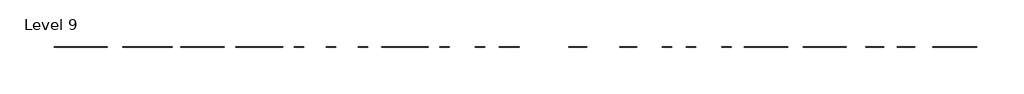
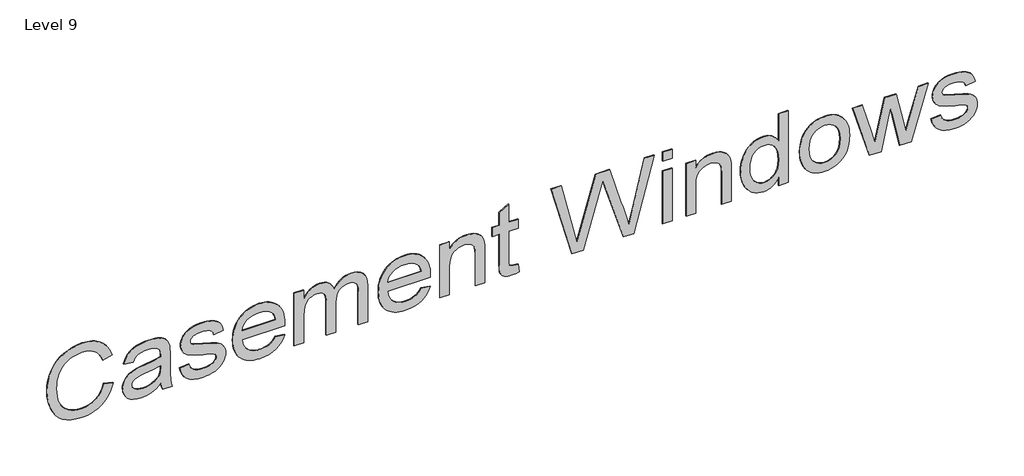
# One storey: 1 proxy.
"""IFC4 building model written with IfcOpenShell, lengths in millimetres."""

from ifc_helpers import new_model, si_unit, frame, origin, place, context, project, spatial, polyline, outline, extrude, element, save

model = new_model("IFC4")

# Units and contexts
model_context = context("Model", 3, world=origin())
ifc_project = project(units=[si_unit("LENGTHUNIT", "METRE", prefix="MILLI")], contexts=[model_context])

# Site, building, storey
site = spatial("IfcSite", under=ifc_project)
building = spatial("IfcBuilding", under=site)
storey = spatial("IfcBuildingStorey", under=building, Name="Level 9", Elevation=24000.0)

# Proxy
placement = place(None, origin())
element("IfcBuildingElementProxy", 1, Name="1200mm Arial", ObjectType="1200mm Arial", at=placement, inside=storey, context=model_context, shape_type="SweptSolid", body=[
    extrude(outline(polyline([(25438.7156522, -163690.7634558), (25371.3942743, -163710.8217832), (25312.8960499, -163738.2865382), (25263.2209789, -163773.1577207), (25222.3690613, -163815.4353308), (25190.483763, -163863.9716412), (25167.7085499, -163917.6189246), (25154.0434221, -163976.377181), (25149.4883795, -164040.2464104), (25152.8329285, -164093.8040276), (25162.8665755, -164145.4427882), (25179.5893205, -164195.1626923), (25203.0011635, -164242.9637399), (25233.1738376, -164286.7208422), (25270.1790755, -164324.3089104), (25314.0168773, -164355.7279445), (25364.6872431, -164380.9779445), (25421.0693454, -164400.372742), (25482.0423567, -164414.2261689), (25547.6062772, -164422.538225), (25617.7611067, -164425.3089104), (25673.5872786, -164422.9686227), (25728.5885215, -164415.9477598), (25782.7648354, -164404.2463216), (25836.1162204, -164387.8643081), (25886.365155, -164365.7077918), (25931.2341181, -164336.682845), (25970.7231096, -164300.7894679), (26004.8321295, -164258.0276604), (26032.3237843, -164209.0161192), (26051.9606806, -164154.373541), (26063.7428184, -164094.099926), (26067.6701976, -164028.195274), (26064.128383, -163970.9165098), (26053.5029391, -163918.7307854), (26035.793866, -163871.6381007), (26011.0011635, -163829.6384558), (25978.461302, -163792.5166518), (25937.5107516, -163760.0574899), (25888.1495123, -163732.26097), (25830.377584, -163709.1270922), (25865.3832658, -163562.2180013), (25943.7873851, -163590.1310872), (26012.8662204, -163627.1004587), (26043.9086564, -163648.9812515), (26072.6197715, -163673.1261156), (26098.9995655, -163699.5350512), (26123.0480385, -163728.2080581), (26144.5006753, -163758.8851044), (26163.0929604, -163791.3061582), (26178.824894, -163825.4712195), (26191.696476, -163861.3802882), (26208.8585854, -163938.430448), (26214.5792885, -164022.4566376), (26210.1587452, -164097.8838393), (26196.8971153, -164170.0830581), (26174.7943986, -164239.0542939), (26143.8505954, -164304.7975467), (26104.3885037, -164365.2594608), (26056.7309221, -164418.3866803), (26000.8778503, -164464.1792051), (25936.8292885, -164502.6370354), (25865.7598638, -164533.0787079), (25788.8442033, -164554.8227598), (25706.082307, -164567.8691909), (25617.4741749, -164572.2180013), (25534.891611, -164568.3713216), (25454.9990329, -164556.8312825), (25377.7964405, -164537.5978841), (25303.283834, -164510.6711263), (25234.4381309, -164476.382774), (25174.2362488, -164435.0645922), (25122.6781877, -164386.7165808), (25079.7639476, -164331.3387399), (25045.9956593, -164268.0613074), (25021.8754533, -164196.0145212), (25007.4033297, -164115.1983812), (25002.5792885, -164025.6128876), (25004.1731051, -163981.0129231), (25008.9545549, -163938.170416), (25016.9236378, -163897.0853663), (25028.0803539, -163857.757774), (25042.4247031, -163820.1876391), (25059.9566856, -163784.3749615), (25080.6763012, -163750.3197413), (25104.5835499, -163718.0219785), (25131.5259993, -163687.8089548), (25161.3512168, -163660.0079516), (25194.0592024, -163634.618969), (25229.6499562, -163611.642007), (25268.123478, -163591.0770655), (25309.4797679, -163572.9241447), (25400.8406522, -163543.8543649), (25438.7156522, -163690.7634558)])), frame((0.0, 24202.6264647, 0.0), z_axis=(0.0, 1.0, 0.0), x_axis=(0.0, 0.0, 1.0)), (0.0, 0.0, 1.0), 10.0),
    extrude(outline(polyline([(25131.1247431, -162809.3089104), (25072.0167885, -162796.1100467), (25045.4755954, -162785.6370354), (25020.9429249, -162772.5816376), (25020.9429249, -162625.6725467), (25081.3779391, -162643.8927172), (25144.4670726, -162654.9395922), (25240.4816323, -162660.5347626), (25399.6929249, -162662.3998195), (25582.4684931, -162662.3998195), (25660.2270158, -162664.1931433), (25711.0139476, -162669.5731149), (25766.0689903, -162687.2911547), (25789.6960322, -162699.7547555), (25810.7227545, -162714.6214104), (25829.6154214, -162732.9581469), (25846.8402971, -162755.8319928), (25862.3973816, -162783.242948), (25876.2866749, -162815.1910126), (25887.7101479, -162851.9810517), (25895.8697715, -162893.9179303), (25900.7655456, -162941.0016483), (25902.3974704, -162993.2322058), (25900.5503468, -163046.6642903), (25895.008976, -163096.7787257), (25885.7733581, -163143.5755119), (25872.8434931, -163187.054649), (25856.5063127, -163226.4181078), (25837.0487488, -163260.8678592), (25814.4708013, -163290.4039033), (25788.7724704, -163315.0262399), (25759.361959, -163335.6225645), (25725.6474704, -163353.0805723), (25687.6290045, -163367.4002633), (25645.3065613, -163378.5816376), (25626.9429249, -163231.6725467), (25660.2180492, -163218.6350822), (25688.0235357, -163202.4772342), (25710.3593844, -163183.1990027), (25727.2255954, -163160.8003876), (25739.5905634, -163133.5418649), (25748.4226834, -163099.6839104), (25753.7219554, -163059.226524), (25755.4883795, -163012.1697058), (25752.8342601, -162961.5621064), (25744.8719022, -162917.6256717), (25731.6013056, -162880.3604018), (25713.0224704, -162849.7662967), (25694.4077687, -162832.0661902), (25670.1261635, -162819.423257), (25640.177655, -162811.837497), (25604.5622431, -162809.3089104), (25571.8520158, -162810.1697058), (25557.7206238, -162856.7602598), (25544.5934931, -162914.7563535), (25521.3520158, -163064.9651604), (25510.5203397, -163139.2087683), (25499.2582658, -163192.0759558), (25479.0295726, -163246.3419359), (25451.0537204, -163294.9410126), (25433.8378113, -163316.720931), (25414.0395158, -163336.2950609), (25391.658834, -163353.6634026), (25366.6957658, -163368.8259558), (25339.7421081, -163381.1281575), (25311.3896579, -163389.9154445), (25281.638415, -163395.1878166), (25250.4883795, -163396.945274), (25198.679253, -163392.2915986), (25151.712101, -163378.3305723), (25109.5869235, -163355.0621952), (25072.3037204, -163322.4864672), (25041.7992814, -163281.2310517), (25020.0103965, -163231.9236121), (25006.9370655, -163174.5641483), (25002.5792885, -163109.1526604), (25004.3905456, -163067.7896454), (25009.824317, -163027.7716234), (25018.8806025, -162989.0985943), (25031.5594022, -162951.7705581), (25048.6497786, -162915.3750503), (25070.9407942, -162879.4996064), (25098.4324491, -162844.1442264), (25131.1247431, -162809.3089104)]), holes=[polyline([(25424.9429249, -162809.3089104), (25383.3378113, -162810.1697058), (25348.0451976, -162811.6222981), (25317.3434931, -162815.9800751), (25291.2326976, -162823.2430368), (25269.7128113, -162833.4111831), (25245.6733049, -162850.914024), (25223.4809221, -162872.7208422), (25203.1356628, -162898.8316376), (25184.6375272, -162929.2464104), (25169.2597751, -162962.960899), (25158.2756664, -162998.9708422), (25151.6852012, -163037.2762399), (25149.4883795, -163077.8770922), (25151.4789689, -163117.6440489), (25157.4507374, -163152.3000325), (25167.4036849, -163181.8450432), (25181.3378113, -163206.2790808), (25198.2488553, -163225.4228131), (25217.1325556, -163239.0969075), (25237.9889121, -163247.3013642), (25260.8179249, -163250.0361831), (25290.4436351, -163245.0148763), (25317.3434931, -163229.9509558), (25339.7959079, -163205.5976178), (25356.0792885, -163172.7080581), (25368.6325556, -163122.5308564), (25379.8946295, -163046.3145922), (25400.4819874, -162908.0134558), (25412.2282587, -162853.7116092), (25424.9429249, -162809.3089104)])]), frame((0.0, 24202.6264647, 0.0), z_axis=(0.0, 1.0, 0.0), x_axis=(0.0, 0.0, 1.0)), (0.0, 0.0, 1.0), 10.0),
    extrude(outline(polyline([(25278.033834, -162515.4907285), (25213.9404391, -162499.3149473), (25158.2397999, -162475.1768081), (25110.9319164, -162443.0763109), (25072.0167885, -162403.0134558), (25041.6378823, -162353.9660481), (25019.9386635, -162294.9118933), (25006.9191323, -162225.8509913), (25002.5792885, -162146.7833422), (25004.82991, -162097.32347), (25011.5817743, -162050.5177172), (25022.8348816, -162006.3660837), (25038.5892317, -161964.8685695), (25058.4682268, -161927.0563358), (25082.0952687, -161893.9605439), (25109.4703574, -161865.5811937), (25140.5934931, -161841.9182854), (25174.1286493, -161823.2766838), (25208.7397999, -161809.9612541), (25244.4269448, -161801.9719963), (25281.190084, -161799.3089104), (25317.7918241, -161801.5774651), (25351.2731806, -161808.3831291), (25381.6341536, -161819.7259026), (25408.8747431, -161835.6057854), (25433.0308155, -161855.4758138), (25454.1382374, -161878.789024), (25472.1970087, -161905.545416), (25487.2071295, -161935.7449899), (25517.980567, -162021.57347), (25556.3576976, -162151.3742513), (25587.6332658, -162277.9111831), (25602.0515897, -162310.2627456), (25620.0565613, -162332.7151604), (25640.2135215, -162345.842291), (25662.8094022, -162350.2180013), (25680.7426408, -162347.5818152), (25697.5281522, -162339.673257), (25713.1659363, -162326.4923266), (25727.6559931, -162308.039024), (25739.8326621, -162283.4346206), (25748.5302829, -162251.8003876), (25753.7488553, -162213.1363251), (25755.4883795, -162167.4424331), (25753.6681557, -162128.0520744), (25748.2074846, -162093.3781575), (25739.106366, -162063.4206824), (25726.3647999, -162038.179649), (25710.3773177, -162017.5653912), (25691.5384505, -162001.4882428), (25669.8481983, -161989.9482037), (25645.3065613, -161982.945274), (25663.6701976, -161836.0361831), (25702.8991572, -161844.3572058), (25737.9496721, -161855.5475467), (25768.8217424, -161869.6072058), (25795.5153681, -161886.5361831), (25818.8465116, -161907.4104729), (25839.6311351, -161933.3060695), (25857.8692388, -161964.2229729), (25873.5608226, -162000.1611831), (25886.176856, -162040.1702385), (25895.1883084, -162083.2996774), (25900.5951799, -162129.5494999), (25902.3974704, -162178.9197058), (25897.9141607, -162244.2325609), (25884.4642317, -162305.3131717), (25864.6300698, -162358.1444928), (25840.9940613, -162398.7094785), (25823.2849881, -162420.3190311), (25803.4418596, -162439.5255297), (25781.4646756, -162456.3289743), (25757.3534363, -162470.7293649), (25731.6282054, -162482.2783706), (25704.8090471, -162490.5276604), (25676.8959611, -162495.4772342), (25647.8889476, -162497.1270922), (25616.1650485, -162495.0737364), (25585.839942, -162488.9136689), (25556.913628, -162478.6468898), (25529.3861067, -162464.273399), (25504.0195407, -162445.9187293), (25481.5760925, -162423.7084132), (25462.0557623, -162397.6424508), (25445.4585499, -162367.7208422), (25412.3537914, -162280.5653024), (25373.5821295, -162146.4964104), (25350.3406522, -162050.3025183), (25331.690084, -161995.2833422), (25318.5270868, -161973.8172555), (25303.1403681, -161958.4843365), (25285.5299278, -161949.2845851), (25265.6957658, -161946.2180013), (25243.0640187, -161949.2666518), (25221.9386635, -161958.4126035), (25202.3197005, -161973.6558564), (25184.2071295, -161994.9964104), (25169.0176763, -162022.6494643), (25158.168067, -162056.8302172), (25151.6583013, -162097.5386689), (25149.4883795, -162144.7748195), (25151.855567, -162192.0647697), (25158.9571295, -162233.795416), (25170.793067, -162269.9667584), (25187.3633795, -162300.5787967), (25208.3811351, -162325.7032641), (25233.5594022, -162345.4118933), (25262.8981806, -162359.7046845), (25296.3974704, -162368.5816376), (25278.033834, -162515.4907285)])), frame((0.0, 24202.6264647, 0.0), z_axis=(0.0, 1.0, 0.0), x_axis=(0.0, 0.0, 1.0)), (0.0, 0.0, 1.0), 10.0),
    extrude(outline(polyline([(25278.033834, -161029.757774), (25246.7403326, -161048.8028734), (25220.0018738, -161070.9324899), (25197.8184576, -161096.1466234), (25180.190084, -161124.445274), (25166.7580883, -161155.8284416), (25157.1638056, -161190.2961263), (25151.407236, -161227.848328), (25149.4883795, -161268.4850467), (25153.6309576, -161322.8137932), (25166.058692, -161372.4619643), (25186.7715826, -161417.4295602), (25215.7696295, -161457.7165808), (25252.5507019, -161491.4579693), (25296.6126692, -161516.7886689), (25347.9555314, -161533.7086795), (25406.5792885, -161542.2180013), (25406.5792885, -160881.9878876), (25446.1758795, -160881.1270922), (25498.8861511, -160882.868858), (25548.5567388, -160888.0941554), (25595.1876426, -160896.8029844), (25638.7788624, -160908.995345), (25679.3303983, -160924.6712372), (25716.8422502, -160943.8306611), (25751.3144182, -160966.4736165), (25782.7469022, -160992.6001035), (25810.7900041, -161021.4703761), (25835.0940258, -161052.3446881), (25855.6589672, -161085.2230394), (25872.4848283, -161120.1054303), (25885.5716092, -161156.9918605), (25894.9193099, -161195.8823301), (25900.5279302, -161236.7768392), (25902.3974704, -161279.6753876), (25900.5234469, -161324.0242868), (25894.9013766, -161366.2570638), (25885.5312594, -161406.3737186), (25872.4130954, -161444.3742513), (25855.5468844, -161480.2586618), (25834.9326266, -161514.0269501), (25810.5703219, -161545.6791163), (25782.4599704, -161575.2151604), (25750.9557534, -161601.9132694), (25716.4118525, -161625.0516305), (25678.8282676, -161644.6302438), (25638.2049988, -161660.6491092), (25594.542046, -161673.1082268), (25547.8394093, -161682.0075964), (25498.0970886, -161687.3472182), (25445.315084, -161689.1270922), (25394.2703619, -161687.3651515), (25346.153241, -161682.0793294), (25300.9637213, -161673.2696259), (25258.7018028, -161660.936041), (25219.3674855, -161645.0785748), (25182.9607694, -161625.6972271), (25149.4816545, -161602.7919981), (25118.9301408, -161576.3628876), (25091.6604098, -161546.9299597), (25068.0266429, -161515.0132783), (25048.0288402, -161480.6128432), (25031.6670016, -161443.7286547), (25018.9411271, -161404.3607126), (25009.8512168, -161362.5090169), (25004.3972706, -161318.1735677), (25002.5792885, -161271.3543649), (25006.7935996, -161198.42885), (25019.4365329, -161132.3000325), (25040.5080883, -161072.9679125), (25070.0082658, -161020.4324899), (25107.148003, -160975.160029), (25151.1382374, -160937.6167939), (25201.9789689, -160907.8027847), (25259.6701976, -160885.7180013), (25278.033834, -161029.757774)]), holes=[polyline([(25553.4883795, -161542.2180013), (25597.2185819, -161534.2466767), (25636.3040755, -161518.0798621), (25670.7448603, -161493.7175574), (25700.5409363, -161461.1597626), (25724.5804427, -161422.3612008), (25741.7515187, -161379.276595), (25752.0541643, -161331.9059452), (25755.4883795, -161280.2492513), (25751.1844022, -161223.6160837), (25738.2724704, -161172.5063535), (25716.752584, -161126.9200609), (25686.6247431, -161086.8572058), (25661.6258084, -161064.9965879), (25631.1034363, -161047.9062115), (25595.0576266, -161035.5860766), (25553.4883795, -161028.0361831), (25553.4883795, -161542.2180013)])]), frame((0.0, 24202.6264647, 0.0), z_axis=(0.0, 1.0, 0.0), x_axis=(0.0, 0.0, 1.0)), (0.0, 0.0, 1.0), 10.0),
    extrude(outline(polyline([(25020.9429249, -160734.2180013), (25020.9429249, -160587.3089104), (25456.2184931, -160587.3089104), (25557.290226, -160581.7137399), (25597.7655456, -160574.7197768), (25631.533834, -160564.9282285), (25660.1194164, -160552.0162967), (25685.0466181, -160535.6611831), (25706.3154391, -160515.8628876), (25723.9258795, -160492.6214104), (25737.7344732, -160467.1024118), (25747.5977545, -160440.4715524), (25753.5157232, -160412.7288322), (25755.4883795, -160383.8742513), (25752.5293951, -160347.8553415), (25743.652442, -160317.270203), (25728.8575201, -160292.1188358), (25708.1446295, -160272.4012399), (25681.4958368, -160257.5256185), (25648.893209, -160246.9001746), (25610.3367459, -160240.5249082), (25565.8264476, -160238.3998195), (25020.9429249, -160238.3998195), (25020.9429249, -160091.4907285), (25508.1531522, -160091.4907285), (25568.5702331, -160087.8951142), (25620.1282942, -160077.1082712), (25662.8273354, -160059.1301994), (25696.6673567, -160033.960899), (25722.4015542, -160003.3578273), (25740.7831238, -159969.0784416), (25751.8120655, -159931.122742), (25755.4883795, -159889.4907285), (25749.7497431, -159844.4065666), (25742.5764476, -159824.2047733), (25732.533834, -159805.5631717), (25720.1509327, -159789.0825254), (25705.9567743, -159775.3635979), (25689.9513589, -159764.4063891), (25672.1346863, -159756.210899), (25622.7465471, -159745.988953), (25549.471334, -159742.5816376), (25020.9429249, -159742.5816376), (25020.9429249, -159595.6725467), (25612.596334, -159595.6725467), (25681.6841358, -159599.8778912), (25741.177655, -159612.4939246), (25791.0768915, -159633.5206469), (25831.3818454, -159662.9580581), (25862.4511813, -159700.1964281), (25884.6435641, -159744.6260268), (25897.9589938, -159796.2468543), (25902.3974704, -159855.0589104), (25899.7299011, -159894.072671), (25891.7271934, -159931.2034416), (25878.3893471, -159966.4512222), (25859.7163624, -159999.8160126), (25835.7082392, -160031.2978131), (25806.3649775, -160060.8966234), (25771.6865773, -160088.6124437), (25731.6730385, -160114.445274), (25769.8798035, -160128.3256007), (25803.5853255, -160146.4381717), (25832.7896046, -160168.7829871), (25857.4926408, -160195.3600467), (25877.1385037, -160226.0796845), (25891.171263, -160260.8522342), (25899.5909185, -160299.6776959), (25902.3974704, -160342.5560695), (25899.6447182, -160381.7760624), (25891.3864618, -160418.8082001), (25877.6227012, -160453.6524828), (25858.3534363, -160486.3089104), (25834.5649952, -160516.2932854), (25807.2437062, -160543.1214104), (25776.3895691, -160566.7932854), (25742.002584, -160587.3089104), (25884.033834, -160587.3089104), (25884.033834, -160734.2180013), (25020.9429249, -160734.2180013)])), frame((0.0, 24202.6264647, 0.0), z_axis=(0.0, 1.0, 0.0), x_axis=(0.0, 0.0, 1.0)), (0.0, 0.0, 1.0), 10.0),
    extrude(outline(polyline([(25278.033834, -158771.0305013), (25246.7403326, -158790.0756007), (25220.0018738, -158812.2052172), (25197.8184576, -158837.4193507), (25180.190084, -158865.7180013), (25166.7580883, -158897.1011689), (25157.1638056, -158931.5688535), (25151.407236, -158969.1210553), (25149.4883795, -159009.757774), (25153.6309576, -159064.0865204), (25166.058692, -159113.7346916), (25186.7715826, -159158.7022875), (25215.7696295, -159198.9893081), (25252.5507019, -159232.7306966), (25296.6126692, -159258.0613962), (25347.9555314, -159274.9814068), (25406.5792885, -159283.4907285), (25406.5792885, -158623.2606149), (25446.1758795, -158622.3998195), (25498.8861511, -158624.1415853), (25548.5567388, -158629.3668827), (25595.1876426, -158638.0757117), (25638.7788624, -158650.2680723), (25679.3303983, -158665.9439645), (25716.8422502, -158685.1033883), (25751.3144182, -158707.7463438), (25782.7469022, -158733.8728308), (25810.7900041, -158762.7431034), (25835.0940258, -158793.6174153), (25855.6589672, -158826.4957667), (25872.4848283, -158861.3781575), (25885.5716092, -158898.2645877), (25894.9193099, -158937.1550574), (25900.5279302, -158978.0495664), (25902.3974704, -159020.9481149), (25900.5234469, -159065.2970141), (25894.9013766, -159107.529791), (25885.5312594, -159147.6464459), (25872.4130954, -159185.6469785), (25855.5468844, -159221.5313891), (25834.9326266, -159255.2996774), (25810.5703219, -159286.9518436), (25782.4599704, -159316.4878876), (25750.9557534, -159343.1859967), (25716.4118525, -159366.3243578), (25678.8282676, -159385.9029711), (25638.2049988, -159401.9218365), (25594.542046, -159414.380954), (25547.8394093, -159423.2803237), (25498.0970886, -159428.6199455), (25445.315084, -159430.3998195), (25394.2703619, -159428.6378788), (25346.153241, -159423.3520567), (25300.9637213, -159414.5423532), (25258.7018028, -159402.2087683), (25219.3674855, -159386.3513021), (25182.9607694, -159366.9699544), (25149.4816545, -159344.0647253), (25118.9301408, -159317.6356149), (25091.6604098, -159288.202687), (25068.0266429, -159256.2860055), (25048.0288402, -159221.8855705), (25031.6670016, -159185.001382), (25018.9411271, -159145.6334398), (25009.8512168, -159103.7817442), (25004.3972706, -159059.446295), (25002.5792885, -159012.6270922), (25006.7935996, -158939.7015773), (25019.4365329, -158873.5727598), (25040.5080883, -158814.2406398), (25070.0082658, -158761.7052172), (25107.148003, -158716.4327562), (25151.1382374, -158678.8895212), (25201.9789689, -158649.0755119), (25259.6701976, -158626.9907285), (25278.033834, -158771.0305013)]), holes=[polyline([(25553.4883795, -159283.4907285), (25597.2185819, -159275.519404), (25636.3040755, -159259.3525893), (25670.7448603, -159234.9902847), (25700.5409363, -159202.4324899), (25724.5804427, -159163.6339281), (25741.7515187, -159120.5493223), (25752.0541643, -159073.1786724), (25755.4883795, -159021.5219785), (25751.1844022, -158964.8888109), (25738.2724704, -158913.7790808), (25716.752584, -158868.1927882), (25686.6247431, -158828.1299331), (25661.6258084, -158806.2693152), (25631.1034363, -158789.1789388), (25595.0576266, -158776.8588038), (25553.4883795, -158769.3089104), (25553.4883795, -159283.4907285)])]), frame((0.0, 24202.6264647, 0.0), z_axis=(0.0, 1.0, 0.0), x_axis=(0.0, 0.0, 1.0)), (0.0, 0.0, 1.0), 10.0),
    extrude(outline(polyline([(25020.9429249, -158475.4907285), (25020.9429249, -158328.5816376), (25478.8861067, -158328.5816376), (25553.0400485, -158324.3942264), (25614.246192, -158311.8319928), (25639.9938393, -158302.4103175), (25662.5045371, -158290.8949366), (25681.7782854, -158277.2858502), (25697.815084, -158261.5830581), (25723.0471508, -158226.4966767), (25741.0700556, -158188.2361121), (25751.8837985, -158146.8013642), (25755.4883795, -158102.1924331), (25753.8833546, -158074.1538145), (25749.06828, -158047.9981859), (25741.0431557, -158023.7255474), (25729.8079817, -158001.335899), (25715.8828219, -157981.5107037), (25699.7877403, -157964.9314246), (25681.5227367, -157951.5980616), (25661.0878113, -157941.5106149), (25636.8241394, -157934.1041874), (25607.0728965, -157928.813882), (25531.1076976, -157924.5816376), (25020.9429249, -157924.5816376), (25020.9429249, -157777.6725467), (25550.9059931, -157777.6725467), (25637.2007374, -157779.6093365), (25692.9372431, -157785.4197058), (25751.2202687, -157802.7432143), (25800.9670726, -157829.4637399), (25822.6124917, -157847.1638464), (25842.0700556, -157868.845132), (25859.3397644, -157894.5075964), (25874.4216181, -157924.1512399), (25886.6610535, -157956.5476355), (25895.4035073, -157990.4683564), (25900.6489796, -158025.9134026), (25902.3974704, -158062.882774), (25900.2275485, -158105.0707179), (25893.7177829, -158144.6942087), (25882.8681735, -158181.7532463), (25867.6787204, -158216.2478308), (25848.1494235, -158248.1779622), (25824.2802829, -158277.5436405), (25796.0712985, -158304.3448656), (25763.5224704, -158328.5816376), (25884.033834, -158328.5816376), (25884.033834, -158475.4907285), (25020.9429249, -158475.4907285)])), frame((0.0, 24202.6264647, 0.0), z_axis=(0.0, 1.0, 0.0), x_axis=(0.0, 0.0, 1.0)), (0.0, 0.0, 1.0), 10.0),
    extrude(outline(polyline([(25143.4628113, -157263.4907285), (25149.4883795, -157327.476524), (25151.9631664, -157356.3490382), (25159.3875272, -157377.5461263), (25171.0441323, -157392.5024473), (25186.2156522, -157402.6526604), (25213.6176408, -157408.4630297), (25261.9656522, -157410.3998195), (25737.1247431, -157410.3998195), (25737.1247431, -157263.4907285), (25884.033834, -157263.4907285), (25884.033834, -157410.3998195), (26180.1474704, -157410.3998195), (26093.7809931, -157557.3089104), (25884.033834, -157557.3089104), (25884.033834, -157667.4907285), (25737.1247431, -157667.4907285), (25737.1247431, -157557.3089104), (25257.6616749, -157557.3089104), (25152.4294306, -157552.8614672), (25116.2222218, -157547.3021632), (25090.9542885, -157539.5191376), (25072.1064547, -157529.0102598), (25055.1595442, -157515.273399), (25040.113557, -157498.3085553), (25026.9684931, -157478.1157285), (25016.2982161, -157454.0672555), (25008.6765897, -157425.5354729), (25004.1036138, -157392.5203805), (25002.5792885, -157355.0219785), (25006.0942033, -157303.3025183), (25016.6389476, -157245.1270922), (25143.4628113, -157263.4907285)])), frame((0.0, 24202.6264647, 0.0), z_axis=(0.0, 1.0, 0.0), x_axis=(0.0, 0.0, 1.0)), (0.0, 0.0, 1.0), 10.0),
    extrude(outline(polyline([(25020.9429249, -156428.8060695), (25020.9429249, -156251.4822058), (25901.8236067, -155994.6782285), (26054.1844022, -155950.4907285), (25927.6474704, -155911.1810695), (25020.9429249, -155629.414024), (25020.9429249, -155472.4623195), (26196.2156522, -155151.6725467), (26196.2156522, -155303.1725467), (25416.908834, -155490.8259558), (25185.3548567, -155546.4907285), (25293.3129533, -155570.8261334), (25401.127584, -155599.9317797), (25508.7987488, -155633.8076675), (25616.3264476, -155672.4537967), (26196.2156522, -155841.7435695), (26196.2156522, -156060.0986831), (25396.2497431, -156293.0873195), (25185.3548567, -156354.4907285), (25423.7951976, -156411.8770922), (26196.2156522, -156597.8089104), (26196.2156522, -156749.3089104), (25020.9429249, -156428.8060695)])), frame((0.0, 24202.6264647, 0.0), z_axis=(0.0, 1.0, 0.0), x_axis=(0.0, 0.0, 1.0)), (0.0, 0.0, 1.0), 10.0),
    extrude(outline(polyline([(-154876.2180013, 24202.6264647), (-155023.1270922, 24202.6264647), (-155023.1270922, 24212.6264647), (-154876.2180013, 24212.6264647), (-154876.2180013, 24202.6264647)])), frame((0.0, 0.0, 26049.3065613), z_axis=(0.0, 0.0, 1.0), x_axis=(1.0, 0.0, 0.0)), (0.0, 0.0, 1.0), 146.9090909),
    extrude(outline(polyline([(-154876.2180013, 24202.6264647), (-155023.1270922, 24202.6264647), (-155023.1270922, 24212.6264647), (-154876.2180013, 24212.6264647), (-154876.2180013, 24202.6264647)])), frame((0.0, 0.0, 25020.9429249), z_axis=(0.0, 0.0, 1.0), x_axis=(1.0, 0.0, 0.0)), (0.0, 0.0, 1.0), 863.0909091),
    extrude(outline(polyline([(25020.9429249, -154655.8543649), (25020.9429249, -154508.945274), (25478.8861067, -154508.945274), (25553.0400485, -154504.7578628), (25614.246192, -154492.1956291), (25639.9938393, -154482.7739539), (25662.5045371, -154471.258573), (25681.7782854, -154457.6494865), (25697.815084, -154441.9466945), (25723.0471508, -154406.8603131), (25741.0700556, -154368.5997484), (25751.8837985, -154327.1650006), (25755.4883795, -154282.5560695), (25753.8833546, -154254.5174508), (25749.06828, -154228.3618223), (25741.0431557, -154204.0891838), (25729.8079817, -154181.6995354), (25715.8828219, -154161.8743401), (25699.7877403, -154145.2950609), (25681.5227367, -154131.961698), (25661.0878113, -154121.8742513), (25636.8241394, -154114.4678237), (25607.0728965, -154109.1775183), (25531.1076976, -154104.945274), (25020.9429249, -154104.945274), (25020.9429249, -153958.0361831), (25550.9059931, -153958.0361831), (25637.2007374, -153959.9729729), (25692.9372431, -153965.7833422), (25751.2202687, -153983.1068507), (25800.9670726, -154009.8273763), (25822.6124917, -154027.5274828), (25842.0700556, -154049.2087683), (25859.3397644, -154074.8712328), (25874.4216181, -154104.5148763), (25886.6610535, -154136.9112719), (25895.4035073, -154170.8319928), (25900.6489796, -154206.2770389), (25902.3974704, -154243.2464104), (25900.2275485, -154285.4343543), (25893.7177829, -154325.057845), (25882.8681735, -154362.1168827), (25867.6787204, -154396.6114672), (25848.1494235, -154428.5415986), (25824.2802829, -154457.9072768), (25796.0712985, -154484.708502), (25763.5224704, -154508.945274), (25884.033834, -154508.945274), (25884.033834, -154655.8543649), (25020.9429249, -154655.8543649)])), frame((0.0, 24202.6264647, 0.0), z_axis=(0.0, 1.0, 0.0), x_axis=(0.0, 0.0, 1.0)), (0.0, 0.0, 1.0), 10.0),
    extrude(outline(polyline([(25020.9429249, -153223.4907285), (25020.9429249, -153076.5816376), (26196.2156522, -153076.5816376), (26196.2156522, -153223.4907285), (25758.3576976, -153223.4907285), (25788.8531699, -153243.5221561), (25816.3537914, -153266.3153024), (25840.859562, -153291.8701675), (25862.3704817, -153320.1867513), (25879.8822893, -153350.9243223), (25892.3907232, -153383.742149), (25899.8957836, -153418.6402314), (25902.3974704, -153455.6185695), (25898.9004888, -153506.1813358), (25888.4095442, -153554.2872484), (25870.9246366, -153599.9363074), (25846.4457658, -153643.1285126), (25815.4033297, -153682.4740382), (25778.227726, -153716.5830581), (25734.9189547, -153745.4555723), (25685.4770158, -153769.0915808), (25631.4800343, -153787.482117), (25574.5061351, -153800.6182143), (25514.5553184, -153808.4998727), (25451.627584, -153811.1270922), (25387.5252225, -153808.2757072), (25327.2067743, -153799.7215524), (25270.6722395, -153785.4646277), (25217.9216181, -153765.5049331), (25169.8695052, -153740.3625325), (25127.4304959, -153710.5574899), (25090.6045904, -153676.0898053), (25059.3917885, -153636.9594785), (25034.5363198, -153594.4935695), (25016.7824135, -153550.0191376), (25006.1300698, -153503.5361831), (25002.5792885, -153455.0447058), (25005.0316589, -153417.9722182), (25012.3887701, -153383.2220851), (25024.650622, -153350.7943063), (25041.8172147, -153320.688882), (25063.8885481, -153292.905812), (25090.8646224, -153267.4450964), (25122.7454373, -153244.3067353), (25159.5309931, -153223.4907285), (25020.9429249, -153223.4907285)]), holes=[polyline([(25452.2014476, -153664.2180013), (25525.5573603, -153660.3444217), (25588.3864618, -153648.7236831), (25640.6887523, -153629.3557854), (25682.4642317, -153602.2407285), (25714.4122964, -153569.3332356), (25737.2323425, -153532.5880297), (25750.9243702, -153492.0051106), (25755.4883795, -153447.5844785), (25750.7360712, -153402.114752), (25736.4791465, -153360.3930723), (25712.7176053, -153322.4194395), (25679.4514476, -153288.1938535), (25636.0350769, -153259.8862364), (25581.8228965, -153239.6665098), (25516.8149064, -153227.5346739), (25441.0111067, -153223.4907285), (25371.8695052, -153227.4629409), (25312.2145868, -153239.379578), (25262.0463518, -153259.2406398), (25221.3647999, -153287.0461263), (25189.918866, -153320.5364494), (25167.4574846, -153357.4520212), (25153.9806557, -153397.7928415), (25149.4883795, -153441.5589104), (25154.1958546, -153485.118747), (25168.31828, -153525.701666), (25191.8556557, -153563.3076675), (25224.8079817, -153597.9367513), (25267.2649242, -153626.9347981), (25319.3161493, -153647.6476888), (25380.9616572, -153660.0754231), (25452.2014476, -153664.2180013)])]), frame((0.0, 24202.6264647, 0.0), z_axis=(0.0, 1.0, 0.0), x_axis=(0.0, 0.0, 1.0)), (0.0, 0.0, 1.0), 10.0),
    extrude(outline(polyline([(25452.4883795, -152892.945274), (25399.5673922, -152891.2797245), (25349.8385215, -152886.2830758), (25303.3017672, -152877.9553282), (25259.9571295, -152866.2964814), (25219.8046081, -152851.3065355), (25182.8442033, -152832.9854906), (25149.075915, -152811.3333466), (25118.4997431, -152786.3501035), (25091.3308866, -152758.6679081), (25067.7845442, -152728.9189068), (25047.8607161, -152697.1030998), (25031.5594022, -152663.2204871), (25018.8806025, -152627.2710686), (25009.824317, -152589.2548443), (25004.3905456, -152549.1718143), (25002.5792885, -152507.0219785), (25005.8700378, -152454.1278912), (25015.7422857, -152403.3319928), (25032.1960322, -152354.6342832), (25055.2312772, -152308.0347626), (25084.2203574, -152265.2012222), (25118.5356096, -152227.801453), (25158.1770336, -152195.8354551), (25203.1446295, -152169.3032285), (25255.2048212, -152148.4648053), (25316.1240329, -152133.5802172), (25385.9022644, -152124.6494643), (25464.5395158, -152121.6725467), (25514.440994, -152123.3560295), (25561.5673035, -152128.4064778), (25605.9184443, -152136.8238917), (25647.4944164, -152148.6082712), (25686.2952198, -152163.7596162), (25722.3208546, -152182.2779267), (25755.5713207, -152204.1632028), (25786.0466181, -152229.4154445), (25813.3163491, -152257.3218054), (25836.950116, -152287.1694395), (25856.9479187, -152318.9583466), (25873.3097573, -152352.6885268), (25886.0356318, -152388.3599801), (25895.1255421, -152425.9727065), (25900.5794883, -152465.526706), (25902.3974704, -152507.0219785), (25896.4257019, -152580.4406575), (25888.9609913, -152614.9711085), (25878.5103965, -152648.0489672), (25865.0739175, -152679.6742335), (25848.6515542, -152709.8469075), (25829.2433067, -152738.5669892), (25806.8491749, -152765.8344785), (25776.0802207, -152795.6260712), (25741.4466536, -152821.4454516), (25702.9484736, -152843.2926195), (25660.5856806, -152861.1675751), (25614.3582747, -152875.0703184), (25564.2662559, -152885.0008493), (25510.3096241, -152890.9591678), (25452.4883795, -152892.945274)]), holes=[polyline([(25452.7753113, -152746.0361831), (25524.0151018, -152741.7860055), (25585.6606096, -152729.0354729), (25637.7118347, -152707.7845851), (25680.1687772, -152678.0333422), (25713.1211032, -152641.8440666), (25736.6584789, -152601.2790808), (25750.7809043, -152556.3383848), (25755.4883795, -152507.0219785), (25750.7629711, -152458.3063358), (25736.5867459, -152413.7332712), (25712.959704, -152373.3027847), (25679.8818454, -152337.0148763), (25637.6221685, -152307.0753344), (25586.4496721, -152285.6899473), (25526.364356, -152272.8587151), (25457.3662204, -152268.5816376), (25384.4496721, -152272.8318152), (25321.5040045, -152285.5823479), (25268.5292175, -152306.8332356), (25225.5253113, -152336.5844785), (25192.2591536, -152372.7378876), (25168.4976124, -152413.195274), (25154.2406877, -152457.9566376), (25149.4883795, -152507.0219785), (25154.2137878, -152556.3383848), (25168.390013, -152601.2790808), (25192.0170549, -152641.8440666), (25225.0949135, -152678.0333422), (25267.6773887, -152707.7845851), (25319.81828, -152729.0354729), (25381.5175876, -152741.7860055), (25452.7753113, -152746.0361831)])]), frame((0.0, 24202.6264647, 0.0), z_axis=(0.0, 1.0, 0.0), x_axis=(0.0, 0.0, 1.0)), (0.0, 0.0, 1.0), 10.0),
    extrude(outline(polyline([(25020.9429249, -151813.2208422), (25020.9429249, -151633.601524), (25684.9031522, -151488.1270922), (25527.0906522, -151455.4168649), (25020.9429249, -151342.6526604), (25020.9429249, -151165.0418649), (25884.033834, -150900.4907285), (25884.033834, -151053.7123195), (25383.9116749, -151202.9168649), (25218.3520158, -151249.3998195), (25375.3037204, -151281.8231149), (25884.033834, -151399.7520922), (25884.033834, -151574.7805013), (25373.8690613, -151693.2833422), (25200.5622431, -151729.7236831), (25380.4684931, -151774.1981149), (25884.033834, -151923.1157285), (25884.033834, -152075.7634558), (25020.9429249, -151813.2208422)])), frame((0.0, 24202.6264647, 0.0), z_axis=(0.0, 1.0, 0.0), x_axis=(0.0, 0.0, 1.0)), (0.0, 0.0, 1.0), 10.0),
    extrude(outline(polyline([(25278.033834, -150854.5816376), (25213.9404391, -150838.4058564), (25158.2397999, -150814.2677172), (25110.9319164, -150782.16722), (25072.0167885, -150742.1043649), (25041.6378823, -150693.0569572), (25019.9386635, -150634.0028024), (25006.9191323, -150564.9419004), (25002.5792885, -150485.8742513), (25004.82991, -150436.4143791), (25011.5817743, -150389.6086263), (25022.8348816, -150345.4569928), (25038.5892317, -150303.9594785), (25058.4682268, -150266.1472449), (25082.0952687, -150233.051453), (25109.4703574, -150204.6721028), (25140.5934931, -150181.0091945), (25174.1286493, -150162.3675929), (25208.7397999, -150149.0521632), (25244.4269448, -150141.0629054), (25281.190084, -150138.3998195), (25317.7918241, -150140.6683741), (25351.2731806, -150147.4740382), (25381.6341536, -150158.8168116), (25408.8747431, -150174.6966945), (25433.0308155, -150194.5667229), (25454.1382374, -150217.8799331), (25472.1970087, -150244.6363251), (25487.2071295, -150274.835899), (25517.980567, -150360.6643791), (25556.3576976, -150490.4651604), (25587.6332658, -150617.0020922), (25602.0515897, -150649.3536547), (25620.0565613, -150671.8060695), (25640.2135215, -150684.9332001), (25662.8094022, -150689.3089104), (25680.7426408, -150686.6727243), (25697.5281522, -150678.764166), (25713.1659363, -150665.5832356), (25727.6559931, -150647.1299331), (25739.8326621, -150622.5255297), (25748.5302829, -150590.8912967), (25753.7488553, -150552.2272342), (25755.4883795, -150506.5333422), (25753.6681557, -150467.1429835), (25748.2074846, -150432.4690666), (25739.106366, -150402.5115915), (25726.3647999, -150377.2705581), (25710.3773177, -150356.6563003), (25691.5384505, -150340.5791518), (25669.8481983, -150329.0391128), (25645.3065613, -150322.0361831), (25663.6701976, -150175.1270922), (25702.8991572, -150183.4481149), (25737.9496721, -150194.6384558), (25768.8217424, -150208.6981149), (25795.5153681, -150225.6270922), (25818.8465116, -150246.501382), (25839.6311351, -150272.3969785), (25857.8692388, -150303.313882), (25873.5608226, -150339.2520922), (25886.176856, -150379.2611476), (25895.1883084, -150422.3905865), (25900.5951799, -150468.6404089), (25902.3974704, -150518.0106149), (25897.9141607, -150583.32347), (25884.4642317, -150644.4040808), (25864.6300698, -150697.2354018), (25840.9940613, -150737.8003876), (25823.2849881, -150759.4099402), (25803.4418596, -150778.6164388), (25781.4646756, -150795.4198834), (25757.3534363, -150809.820274), (25731.6282054, -150821.3692797), (25704.8090471, -150829.6185695), (25676.8959611, -150834.5681433), (25647.8889476, -150836.2180013), (25616.1650485, -150834.1646454), (25585.839942, -150828.004578), (25556.913628, -150817.7377989), (25529.3861067, -150803.3643081), (25504.0195407, -150785.0096383), (25481.5760925, -150762.7993223), (25462.0557623, -150736.7333599), (25445.4585499, -150706.8117513), (25412.3537914, -150619.6562115), (25373.5821295, -150485.5873195), (25350.3406522, -150389.3934274), (25331.690084, -150334.3742513), (25318.5270868, -150312.9081646), (25303.1403681, -150297.5752456), (25285.5299278, -150288.3754942), (25265.6957658, -150285.3089104), (25243.0640187, -150288.3575609), (25221.9386635, -150297.5035126), (25202.3197005, -150312.7467655), (25184.2071295, -150334.0873195), (25169.0176763, -150361.7403734), (25158.168067, -150395.9211263), (25151.6583013, -150436.629578), (25149.4883795, -150483.8657285), (25151.855567, -150531.1556788), (25158.9571295, -150572.8863251), (25170.793067, -150609.0576675), (25187.3633795, -150639.6697058), (25208.3811351, -150664.7941731), (25233.5594022, -150684.5028024), (25262.8981806, -150698.7955936), (25296.3974704, -150707.6725467), (25278.033834, -150854.5816376)])), frame((0.0, 24202.6264647, 0.0), z_axis=(0.0, 1.0, 0.0), x_axis=(0.0, 0.0, 1.0)), (0.0, 0.0, 1.0), 10.0),
])

save(model, "model.ifc")
